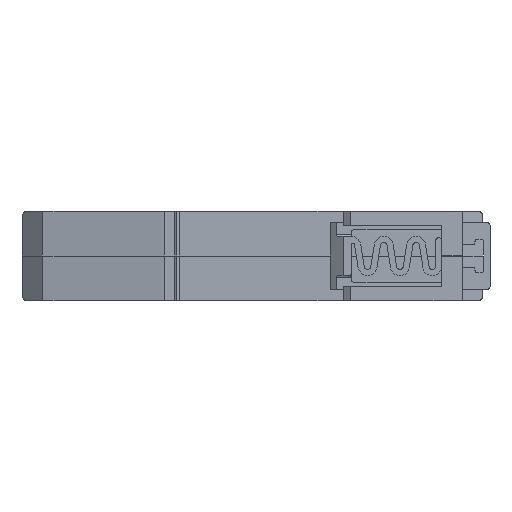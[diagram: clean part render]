
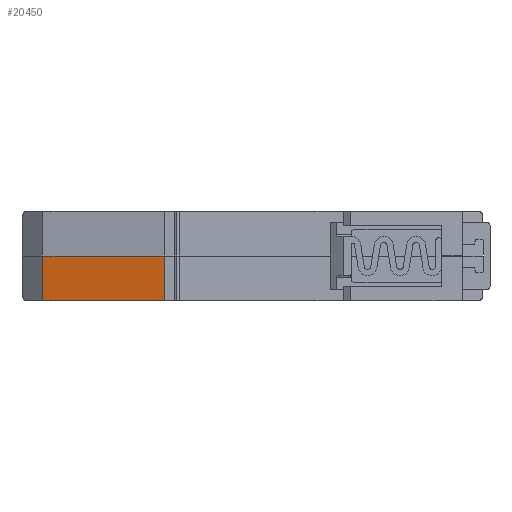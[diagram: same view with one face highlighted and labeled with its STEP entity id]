
A CAD part, front view. The second image highlights one B-rep face of the part: STEP entity #20450.
In plain terms, the highlighted planar face has unit normal (-0.206, -0.979, 0).
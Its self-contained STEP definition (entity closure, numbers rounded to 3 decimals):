
#1987 = PLANE('',#1988);
#1988 = AXIS2_PLACEMENT_3D('',#1989,#1990,#1991);
#1989 = CARTESIAN_POINT('',(0.,0.,0.));
#1990 = DIRECTION('',(0.,0.,-1.));
#1991 = DIRECTION('',(1.,0.,0.));
#2260 = PLANE('',#2261);
#2261 = AXIS2_PLACEMENT_3D('',#2262,#2263,#2264);
#2262 = CARTESIAN_POINT('',(0.,0.,-8.75));
#2263 = DIRECTION('',(0.,0.,1.));
#2264 = DIRECTION('',(-1.,0.,0.));
#13019 = VERTEX_POINT('',#13020);
#13020 = CARTESIAN_POINT('',(-40.892,5.,0.));
#13034 = PLANE('',#13035);
#13035 = AXIS2_PLACEMENT_3D('',#13036,#13037,#13038);
#13036 = CARTESIAN_POINT('',(-45.,5.,8.75));
#13037 = DIRECTION('',(0.,1.,0.));
#13038 = DIRECTION('',(0.,0.,-1.));
#13046 = EDGE_CURVE('',#13047,#13019,#13049,.T.);
#13047 = VERTEX_POINT('',#13048);
#13048 = CARTESIAN_POINT('',(-17.15,-0.,-0.));
#13049 = SURFACE_CURVE('',#13050,(#13054,#13061),.PCURVE_S1.);
#13050 = LINE('',#13051,#13052);
#13051 = CARTESIAN_POINT('',(-17.15,0.,0.));
#13052 = VECTOR('',#13053,1.);
#13053 = DIRECTION('',(-0.979,0.206,0.));
#13054 = PCURVE('',#1987,#13055);
#13055 = DEFINITIONAL_REPRESENTATION('',(#13056),#13060);
#13056 = LINE('',#13057,#13058);
#13057 = CARTESIAN_POINT('',(-17.15,0.));
#13058 = VECTOR('',#13059,1.);
#13059 = DIRECTION('',(-0.979,-0.206));
#13060 = ( GEOMETRIC_REPRESENTATION_CONTEXT(2) 
PARAMETRIC_REPRESENTATION_CONTEXT() REPRESENTATION_CONTEXT('2D SPACE',''
  ) );
#13061 = PCURVE('',#13062,#13067);
#13062 = PLANE('',#13063);
#13063 = AXIS2_PLACEMENT_3D('',#13064,#13065,#13066);
#13064 = CARTESIAN_POINT('',(-17.15,0.,26.223));
#13065 = DIRECTION('',(-0.206,-0.979,0.));
#13066 = DIRECTION('',(0.979,-0.206,0.));
#13067 = DEFINITIONAL_REPRESENTATION('',(#13068),#13072);
#13068 = LINE('',#13069,#13070);
#13069 = CARTESIAN_POINT('',(0.,-26.223));
#13070 = VECTOR('',#13071,1.);
#13071 = DIRECTION('',(-1.,0.));
#13072 = ( GEOMETRIC_REPRESENTATION_CONTEXT(2) 
PARAMETRIC_REPRESENTATION_CONTEXT() REPRESENTATION_CONTEXT('2D SPACE',''
  ) );
#13090 = PLANE('',#13091);
#13091 = AXIS2_PLACEMENT_3D('',#13092,#13093,#13094);
#13092 = CARTESIAN_POINT('',(-17.15,0.,26.223));
#13093 = DIRECTION('',(0.,-1.,0.));
#13094 = DIRECTION('',(0.,0.,1.));
#15939 = VERTEX_POINT('',#15940);
#15940 = CARTESIAN_POINT('',(-40.892,5.,-8.75));
#15961 = EDGE_CURVE('',#13019,#15939,#15962,.T.);
#15962 = SURFACE_CURVE('',#15963,(#15967,#15974),.PCURVE_S1.);
#15963 = LINE('',#15964,#15965);
#15964 = CARTESIAN_POINT('',(-40.892,5.,26.223));
#15965 = VECTOR('',#15966,1.);
#15966 = DIRECTION('',(0.,0.,-1.));
#15967 = PCURVE('',#13034,#15968);
#15968 = DEFINITIONAL_REPRESENTATION('',(#15969),#15973);
#15969 = LINE('',#15970,#15971);
#15970 = CARTESIAN_POINT('',(-17.473,-4.108));
#15971 = VECTOR('',#15972,1.);
#15972 = DIRECTION('',(1.,0.));
#15973 = ( GEOMETRIC_REPRESENTATION_CONTEXT(2) 
PARAMETRIC_REPRESENTATION_CONTEXT() REPRESENTATION_CONTEXT('2D SPACE',''
  ) );
#15974 = PCURVE('',#13062,#15975);
#15975 = DEFINITIONAL_REPRESENTATION('',(#15976),#15980);
#15976 = LINE('',#15977,#15978);
#15977 = CARTESIAN_POINT('',(-24.263,0.));
#15978 = VECTOR('',#15979,1.);
#15979 = DIRECTION('',(0.,-1.));
#15980 = ( GEOMETRIC_REPRESENTATION_CONTEXT(2) 
PARAMETRIC_REPRESENTATION_CONTEXT() REPRESENTATION_CONTEXT('2D SPACE',''
  ) );
#17425 = VERTEX_POINT('',#17426);
#17426 = CARTESIAN_POINT('',(-17.15,0.,-8.75));
#17447 = EDGE_CURVE('',#15939,#17425,#17448,.T.);
#17448 = SURFACE_CURVE('',#17449,(#17453,#17460),.PCURVE_S1.);
#17449 = LINE('',#17450,#17451);
#17450 = CARTESIAN_POINT('',(-17.15,0.,-8.75));
#17451 = VECTOR('',#17452,1.);
#17452 = DIRECTION('',(0.979,-0.206,0.));
#17453 = PCURVE('',#2260,#17454);
#17454 = DEFINITIONAL_REPRESENTATION('',(#17455),#17459);
#17455 = LINE('',#17456,#17457);
#17456 = CARTESIAN_POINT('',(17.15,0.));
#17457 = VECTOR('',#17458,1.);
#17458 = DIRECTION('',(-0.979,0.206));
#17459 = ( GEOMETRIC_REPRESENTATION_CONTEXT(2) 
PARAMETRIC_REPRESENTATION_CONTEXT() REPRESENTATION_CONTEXT('2D SPACE',''
  ) );
#17460 = PCURVE('',#13062,#17461);
#17461 = DEFINITIONAL_REPRESENTATION('',(#17462),#17466);
#17462 = LINE('',#17463,#17464);
#17463 = CARTESIAN_POINT('',(0.,-34.973));
#17464 = VECTOR('',#17465,1.);
#17465 = DIRECTION('',(1.,0.));
#17466 = ( GEOMETRIC_REPRESENTATION_CONTEXT(2) 
PARAMETRIC_REPRESENTATION_CONTEXT() REPRESENTATION_CONTEXT('2D SPACE',''
  ) );
#20428 = EDGE_CURVE('',#13047,#17425,#20429,.T.);
#20429 = SURFACE_CURVE('',#20430,(#20434,#20441),.PCURVE_S1.);
#20430 = LINE('',#20431,#20432);
#20431 = CARTESIAN_POINT('',(-17.15,0.,26.223));
#20432 = VECTOR('',#20433,1.);
#20433 = DIRECTION('',(0.,0.,-1.));
#20434 = PCURVE('',#13090,#20435);
#20435 = DEFINITIONAL_REPRESENTATION('',(#20436),#20440);
#20436 = LINE('',#20437,#20438);
#20437 = CARTESIAN_POINT('',(0.,0.));
#20438 = VECTOR('',#20439,1.);
#20439 = DIRECTION('',(-1.,0.));
#20440 = ( GEOMETRIC_REPRESENTATION_CONTEXT(2) 
PARAMETRIC_REPRESENTATION_CONTEXT() REPRESENTATION_CONTEXT('2D SPACE',''
  ) );
#20441 = PCURVE('',#13062,#20442);
#20442 = DEFINITIONAL_REPRESENTATION('',(#20443),#20447);
#20443 = LINE('',#20444,#20445);
#20444 = CARTESIAN_POINT('',(0.,0.));
#20445 = VECTOR('',#20446,1.);
#20446 = DIRECTION('',(0.,-1.));
#20447 = ( GEOMETRIC_REPRESENTATION_CONTEXT(2) 
PARAMETRIC_REPRESENTATION_CONTEXT() REPRESENTATION_CONTEXT('2D SPACE',''
  ) );
#20450 = ADVANCED_FACE('',(#20451),#13062,.T.);
#20451 = FACE_BOUND('',#20452,.T.);
#20452 = EDGE_LOOP('',(#20453,#20454,#20455,#20456));
#20453 = ORIENTED_EDGE('',*,*,#13046,.T.);
#20454 = ORIENTED_EDGE('',*,*,#15961,.T.);
#20455 = ORIENTED_EDGE('',*,*,#17447,.T.);
#20456 = ORIENTED_EDGE('',*,*,#20428,.F.);
